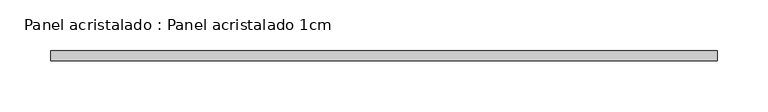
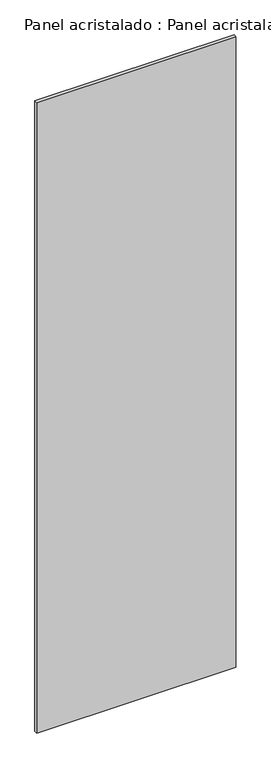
"""IFC4 building model written with IfcOpenShell, lengths in millimetres: plate geometry, Panel acristalado : Panel acristalado 1cm."""

from ifc_helpers import new_model, si_unit, origin, origin_with_axes, place, context, project, spatial, polyline, outline, extrude, source, transform, mapped, element, save


def panel_acristalado_panel_acristalado_1cm_23847091(model_context):
    return source(origin(), model_context, "Body", "SweptSolid", [
        extrude(outline(polyline([(328.6291177, -20.0), (328.6291177, -30.0), (-328.6291177, -30.0), (-328.6291177, -20.0), (328.6291177, -20.0)])), origin_with_axes(), (0.0, 0.0, 1.0), 2200.0),
    ])


if __name__ == "__main__":
    model = new_model("IFC4")
    model_context = context("Model", 3, world=origin())
    ifc_project = project(units=[si_unit("LENGTHUNIT", "METRE", prefix="MILLI")], contexts=[model_context])
    site = spatial("IfcSite", under=ifc_project)
    building = spatial("IfcBuilding", under=site)
    placement = place(None, origin())
    panel_acristalado_panel_acristalado_1cm_shape = panel_acristalado_panel_acristalado_1cm_23847091(model_context)
    element("IfcPlate", 1, ObjectType="Panel acristalado : Panel acristalado 1cm", at=placement, inside=building, context=model_context, shape_type="MappedRepresentation", body=[
        mapped(panel_acristalado_panel_acristalado_1cm_shape, transform((0.0, 0.0, 0.0), x_axis=(1.0, 0.0, 0.0), y_axis=(0.0, 1.0, 0.0), z_axis=(0.0, 0.0, 1.0))),
    ])
    save(model, "model.ifc")
